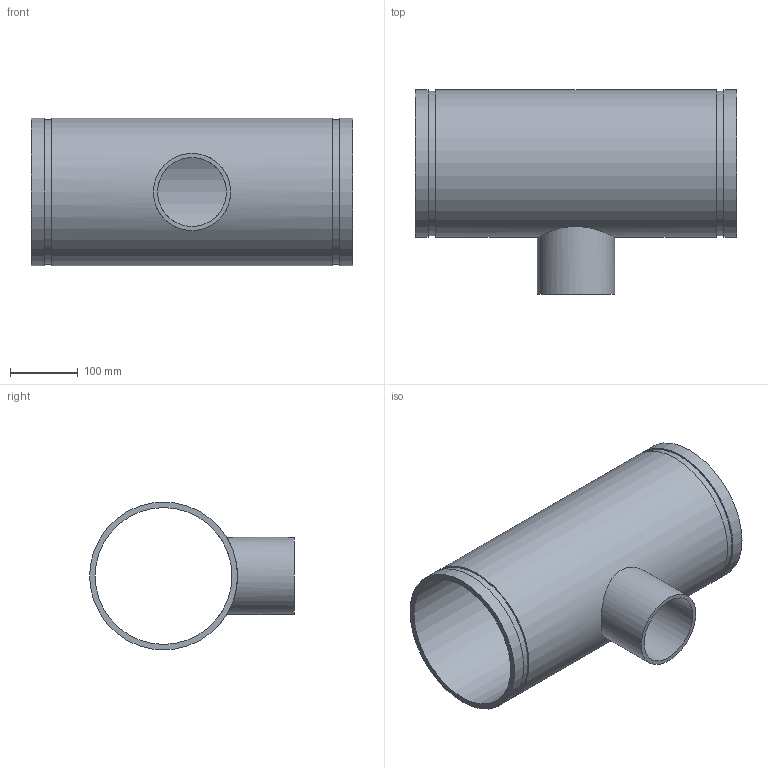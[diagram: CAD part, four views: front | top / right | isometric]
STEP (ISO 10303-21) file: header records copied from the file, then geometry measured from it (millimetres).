
FILE_DESCRIPTION(/* description */ ('VIC REDUCING TEE No 29T FFT (OGSxMPT)','CAx-IF Rec.Pracs.---Representation and Presentation of Product Manufacturing Information (PMI)---4.0---2014-10-13'),/* implementation_level */ '2;1');
FILE_NAME(/* name */ 'C:\Users\kkamble\AppData\Roaming\Autodesk\ApplicationPlugins\Back Up\Victaulic_IPS_Tee Reducing_No 29T FFT (OGSxMPT)\Victaulic_IPS_Tee Reducing_No 29T FFT (OGSxMPT)_08.0x04.0 (200x100).stp',/* time_stamp */ '2020-09-16T22:38:47+05:00',/* author */ ('CORINNE GRAY'),/* organization */ ('Victaulic'),/* preprocessor_version */ 'ST-DEVELOPER v17.2',/* originating_system */ 'Autodesk Inventor 2019',/* authorisation */ '');
FILE_SCHEMA (('AP242_MANAGED_MODEL_BASED_3D_ENGINEERING_MIM_LF { 1 0 10303 442 1 1 4 }'));
Length unit declared in the file: inch
Products named in the file (1): 29 FFT-08.0x04.0
Bounding box: 476.5 x 303.34 x 219.07 mm (x, y, z)
Volume: 2664405.4 mm3; surface area: 696155.6 mm2
Topology: 1 solids, 1 shells, 15 faces, 32 edges, 24 vertices
Faces by surface type: cylinder 8, plane 7
Full cylindrical faces by diameter (mm): 102.26 x1, 114.3 x1, 202.717 x1, 214.401 x2, 219.075 x3
Entity records: 709 total; most frequent: CARTESIAN_POINT 221, DIRECTION 106, ORIENTED_EDGE 64, AXIS2_PLACEMENT_3D 49, EDGE_CURVE 32, EDGE_LOOP 24, VERTEX_POINT 24, CIRCLE 20
